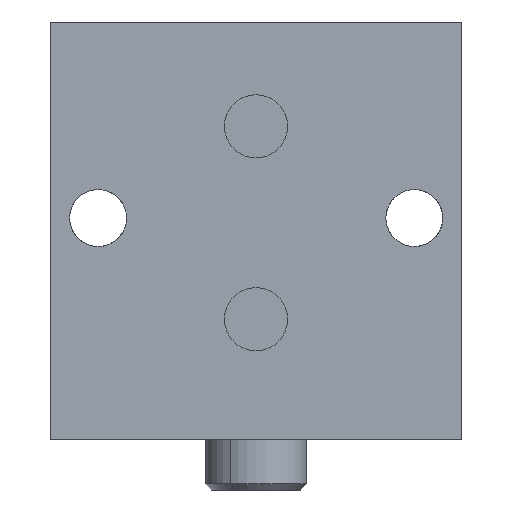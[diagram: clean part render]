
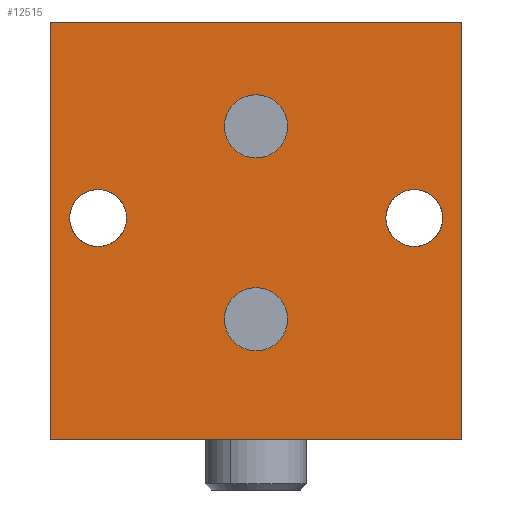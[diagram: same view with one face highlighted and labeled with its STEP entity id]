
A CAD part, front view. The second image highlights one B-rep face of the part: STEP entity #12515.
In plain terms, the highlighted planar face has unit normal (0, -1, 0).
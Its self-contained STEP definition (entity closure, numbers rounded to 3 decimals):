
#194 = DIRECTION ( 'NONE',  ( 0., 1., 0. ) ) ;
#281 = EDGE_CURVE ( 'NONE', #16139, #12844, #7550, .T. ) ;
#446 = DIRECTION ( 'NONE',  ( 0., 0., 1. ) ) ;
#452 = ORIENTED_EDGE ( 'NONE', *, *, #6618, .T. ) ;
#521 = EDGE_CURVE ( 'NONE', #7334, #6053, #16298, .T. ) ;
#661 = VERTEX_POINT ( 'NONE', #5803 ) ;
#679 = EDGE_LOOP ( 'NONE', ( #4294, #17195 ) ) ;
#769 = ORIENTED_EDGE ( 'NONE', *, *, #1712, .T. ) ;
#991 = LINE ( 'NONE', #10972, #8284 ) ;
#1126 = AXIS2_PLACEMENT_3D ( 'NONE', #16466, #8627, #446 ) ;
#1238 = VERTEX_POINT ( 'NONE', #7988 ) ;
#1654 = ORIENTED_EDGE ( 'NONE', *, *, #4367, .F. ) ;
#1679 = CARTESIAN_POINT ( 'NONE',  ( -24.964, 0., 9. ) ) ;
#1712 = EDGE_CURVE ( 'NONE', #1238, #2458, #2807, .T. ) ;
#1790 = VERTEX_POINT ( 'NONE', #4925 ) ;
#2334 = ORIENTED_EDGE ( 'NONE', *, *, #4699, .F. ) ;
#2368 = CIRCLE ( 'NONE', #6539, 4.5 ) ;
#2458 = VERTEX_POINT ( 'NONE', #12802 ) ;
#2620 = ORIENTED_EDGE ( 'NONE', *, *, #4757, .T. ) ;
#2807 = CIRCLE ( 'NONE', #12125, 4.5 ) ;
#2954 = PLANE ( 'NONE',  #16520 ) ;
#3050 = DIRECTION ( 'NONE',  ( -1., 0., 0. ) ) ;
#3277 = CARTESIAN_POINT ( 'NONE',  ( -32.5, 0., -26. ) ) ;
#3316 = CARTESIAN_POINT ( 'NONE',  ( -24.964, 0., 13.5 ) ) ;
#3709 = DIRECTION ( 'NONE',  ( 0., -1., 0. ) ) ;
#3879 = AXIS2_PLACEMENT_3D ( 'NONE', #8400, #194, #9684 ) ;
#4051 = EDGE_LOOP ( 'NONE', ( #452, #8942 ) ) ;
#4294 = ORIENTED_EDGE ( 'NONE', *, *, #14316, .F. ) ;
#4335 = CIRCLE ( 'NONE', #1126, 4.5 ) ;
#4367 = EDGE_CURVE ( 'NONE', #8299, #661, #8649, .T. ) ;
#4389 = DIRECTION ( 'NONE',  ( 0., 1., 0. ) ) ;
#4514 = EDGE_CURVE ( 'NONE', #661, #8684, #17352, .T. ) ;
#4544 = EDGE_CURVE ( 'NONE', #8684, #7216, #13370, .T. ) ;
#4699 = EDGE_CURVE ( 'NONE', #7216, #8299, #991, .T. ) ;
#4721 = EDGE_CURVE ( 'NONE', #6053, #7334, #15227, .T. ) ;
#4757 = EDGE_CURVE ( 'NONE', #2458, #1238, #4335, .T. ) ;
#4925 = CARTESIAN_POINT ( 'NONE',  ( -24.964, 0., 4.5 ) ) ;
#5499 = AXIS2_PLACEMENT_3D ( 'NONE', #14863, #14832, #14802 ) ;
#5803 = CARTESIAN_POINT ( 'NONE',  ( -32.5, 0., 40. ) ) ;
#5893 = CARTESIAN_POINT ( 'NONE',  ( 0., 0., -7. ) ) ;
#5965 = AXIS2_PLACEMENT_3D ( 'NONE', #11582, #3709, #12924 ) ;
#6053 = VERTEX_POINT ( 'NONE', #7069 ) ;
#6168 = DIRECTION ( 'NONE',  ( 0., 1., 0. ) ) ;
#6381 = FACE_OUTER_BOUND ( 'NONE', #6833, .T. ) ;
#6508 = VECTOR ( 'NONE', #10385, 1000. ) ;
#6539 = AXIS2_PLACEMENT_3D ( 'NONE', #1679, #11020, #8933 ) ;
#6618 = EDGE_CURVE ( 'NONE', #9417, #1790, #12297, .T. ) ;
#6833 = EDGE_LOOP ( 'NONE', ( #1654, #2334, #11428, #11365 ) ) ;
#7047 = DIRECTION ( 'NONE',  ( 0., 0., -1. ) ) ;
#7069 = CARTESIAN_POINT ( 'NONE',  ( 0., 0., -12. ) ) ;
#7182 = CARTESIAN_POINT ( 'NONE',  ( 32.5, 0., -26. ) ) ;
#7215 = DIRECTION ( 'NONE',  ( 0., 0., -1. ) ) ;
#7216 = VERTEX_POINT ( 'NONE', #7182 ) ;
#7334 = VERTEX_POINT ( 'NONE', #16845 ) ;
#7550 = CIRCLE ( 'NONE', #16307, 5. ) ;
#7643 = ORIENTED_EDGE ( 'NONE', *, *, #4721, .F. ) ;
#7988 = CARTESIAN_POINT ( 'NONE',  ( 25.036, 0., 4.5 ) ) ;
#8284 = VECTOR ( 'NONE', #3050, 1000. ) ;
#8299 = VERTEX_POINT ( 'NONE', #3277 ) ;
#8317 = EDGE_LOOP ( 'NONE', ( #7643, #15792 ) ) ;
#8400 = CARTESIAN_POINT ( 'NONE',  ( -24.964, 0., 9. ) ) ;
#8627 = DIRECTION ( 'NONE',  ( 0., 1., 0. ) ) ;
#8649 = LINE ( 'NONE', #16154, #15608 ) ;
#8684 = VERTEX_POINT ( 'NONE', #13398 ) ;
#8870 = DIRECTION ( 'NONE',  ( 1., 0., 0. ) ) ;
#8901 = DIRECTION ( 'NONE',  ( 0., -1., 0. ) ) ;
#8933 = DIRECTION ( 'NONE',  ( 0., 0., 1. ) ) ;
#8942 = ORIENTED_EDGE ( 'NONE', *, *, #15009, .T. ) ;
#9290 = CARTESIAN_POINT ( 'NONE',  ( 0., 0., 23.5 ) ) ;
#9417 = VERTEX_POINT ( 'NONE', #3316 ) ;
#9684 = DIRECTION ( 'NONE',  ( 0., 0., 1. ) ) ;
#9755 = FACE_BOUND ( 'NONE', #15381, .T. ) ;
#10112 = CARTESIAN_POINT ( 'NONE',  ( 0., 0., 18.5 ) ) ;
#10155 = FACE_BOUND ( 'NONE', #4051, .T. ) ;
#10280 = VECTOR ( 'NONE', #8870, 1000. ) ;
#10385 = DIRECTION ( 'NONE',  ( 0., 0., -1. ) ) ;
#10835 = CARTESIAN_POINT ( 'NONE',  ( 0., 0., 0. ) ) ;
#10972 = CARTESIAN_POINT ( 'NONE',  ( -32.5, 0., -26. ) ) ;
#11020 = DIRECTION ( 'NONE',  ( 0., 1., 0. ) ) ;
#11314 = CIRCLE ( 'NONE', #5965, 5. ) ;
#11365 = ORIENTED_EDGE ( 'NONE', *, *, #4514, .F. ) ;
#11400 = CARTESIAN_POINT ( 'NONE',  ( 0., 0., 28.5 ) ) ;
#11428 = ORIENTED_EDGE ( 'NONE', *, *, #4544, .F. ) ;
#11582 = CARTESIAN_POINT ( 'NONE',  ( 0., 0., 23.5 ) ) ;
#12125 = AXIS2_PLACEMENT_3D ( 'NONE', #13906, #6168, #15250 ) ;
#12192 = DIRECTION ( 'NONE',  ( 0., 0., 1. ) ) ;
#12297 = CIRCLE ( 'NONE', #3879, 4.5 ) ;
#12515 = ADVANCED_FACE ( 'NONE', ( #16743, #16933, #10155, #9755, #6381 ), #2954, .F. ) ;
#12802 = CARTESIAN_POINT ( 'NONE',  ( 25.036, 0., 13.5 ) ) ;
#12844 = VERTEX_POINT ( 'NONE', #10112 ) ;
#12924 = DIRECTION ( 'NONE',  ( 0., 0., -1. ) ) ;
#13370 = LINE ( 'NONE', #15624, #6508 ) ;
#13398 = CARTESIAN_POINT ( 'NONE',  ( 32.5, 0., 40. ) ) ;
#13565 = DIRECTION ( 'NONE',  ( 0., 0., 1. ) ) ;
#13906 = CARTESIAN_POINT ( 'NONE',  ( 25.036, 0., 9. ) ) ;
#14316 = EDGE_CURVE ( 'NONE', #12844, #16139, #11314, .T. ) ;
#14802 = DIRECTION ( 'NONE',  ( 0., 0., -1. ) ) ;
#14832 = DIRECTION ( 'NONE',  ( 0., -1., 0. ) ) ;
#14863 = CARTESIAN_POINT ( 'NONE',  ( 0., 0., -7. ) ) ;
#14991 = DIRECTION ( 'NONE',  ( 0., -1., 0. ) ) ;
#15009 = EDGE_CURVE ( 'NONE', #1790, #9417, #2368, .T. ) ;
#15227 = CIRCLE ( 'NONE', #16664, 5. ) ;
#15250 = DIRECTION ( 'NONE',  ( 0., 0., 1. ) ) ;
#15381 = EDGE_LOOP ( 'NONE', ( #2620, #769 ) ) ;
#15608 = VECTOR ( 'NONE', #12192, 1000. ) ;
#15624 = CARTESIAN_POINT ( 'NONE',  ( 32.5, 0., -26. ) ) ;
#15792 = ORIENTED_EDGE ( 'NONE', *, *, #521, .F. ) ;
#16139 = VERTEX_POINT ( 'NONE', #11400 ) ;
#16154 = CARTESIAN_POINT ( 'NONE',  ( -32.5, 0., -26. ) ) ;
#16298 = CIRCLE ( 'NONE', #5499, 5. ) ;
#16307 = AXIS2_PLACEMENT_3D ( 'NONE', #9290, #8901, #7047 ) ;
#16466 = CARTESIAN_POINT ( 'NONE',  ( 25.036, 0., 9. ) ) ;
#16520 = AXIS2_PLACEMENT_3D ( 'NONE', #10835, #4389, #13565 ) ;
#16664 = AXIS2_PLACEMENT_3D ( 'NONE', #5893, #14991, #7215 ) ;
#16726 = CARTESIAN_POINT ( 'NONE',  ( -32.5, 0., 40. ) ) ;
#16743 = FACE_BOUND ( 'NONE', #8317, .T. ) ;
#16845 = CARTESIAN_POINT ( 'NONE',  ( 0., 0., -2. ) ) ;
#16933 = FACE_BOUND ( 'NONE', #679, .T. ) ;
#17195 = ORIENTED_EDGE ( 'NONE', *, *, #281, .F. ) ;
#17352 = LINE ( 'NONE', #16726, #10280 ) ;
